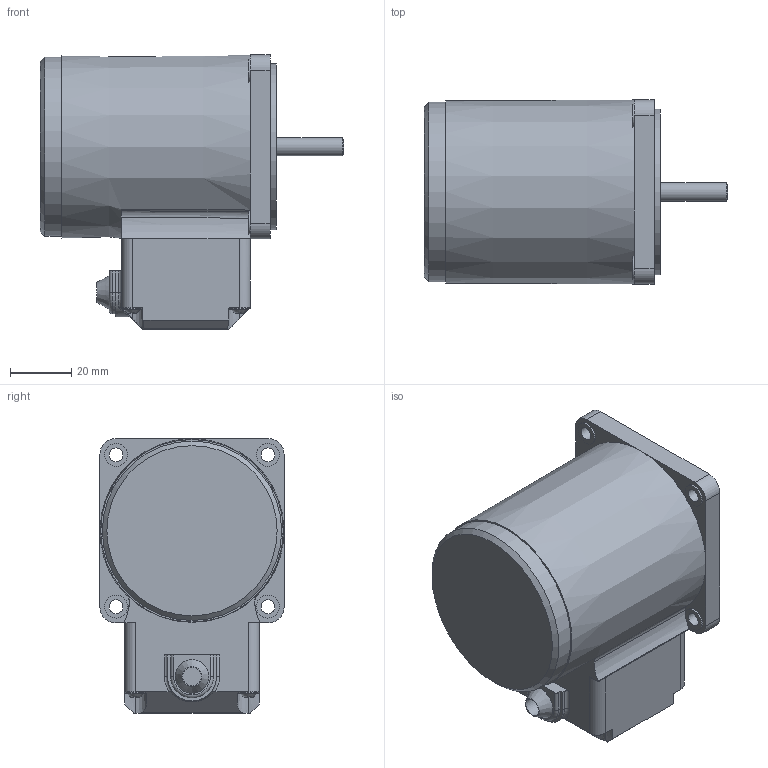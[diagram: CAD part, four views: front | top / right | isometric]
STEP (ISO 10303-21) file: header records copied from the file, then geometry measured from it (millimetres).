
FILE_DESCRIPTION((''),'2;1');
FILE_NAME('D:\미주향3D\6W MOTOR\TBOX TYPE\S6(I,R)06S-T.stp','2013-05-20T15:55:01',('leebh'),(''),'Autodesk Inventor 2011','Autodesk Inventor 2011','');
FILE_SCHEMA(('AUTOMOTIVE_DESIGN { 1 0 10303 214 1 1 1 1 }'));
Length unit declared in the file: millimetre
Products named in the file (1): 부품2
Bounding box: 99 x 60 x 89.5 mm (x, y, z)
Volume: 251026.5 mm3; surface area: 37298.5 mm2
Topology: 1 solids, 5 shells, 275 faces, 713 edges, 462 vertices
Faces by surface type: plane 132, cylinder 88, bspline 28, torus 15, cone 12
Full cylindrical faces by diameter (mm): 3 x4, 3.5 x4, 3.8 x4, 4.5 x4, 5.6 x4, 6 x1, 7.5 x4, 8 x1, 25 x1, 54 x1, 58.5 x1
Entity records: 9284 total; most frequent: CARTESIAN_POINT 2602, ORIENTED_EDGE 1308, DIRECTION 1293, EDGE_CURVE 654, AXIS2_PLACEMENT_3D 492, VERTEX_POINT 452, EDGE_LOOP 360, VECTOR 309
